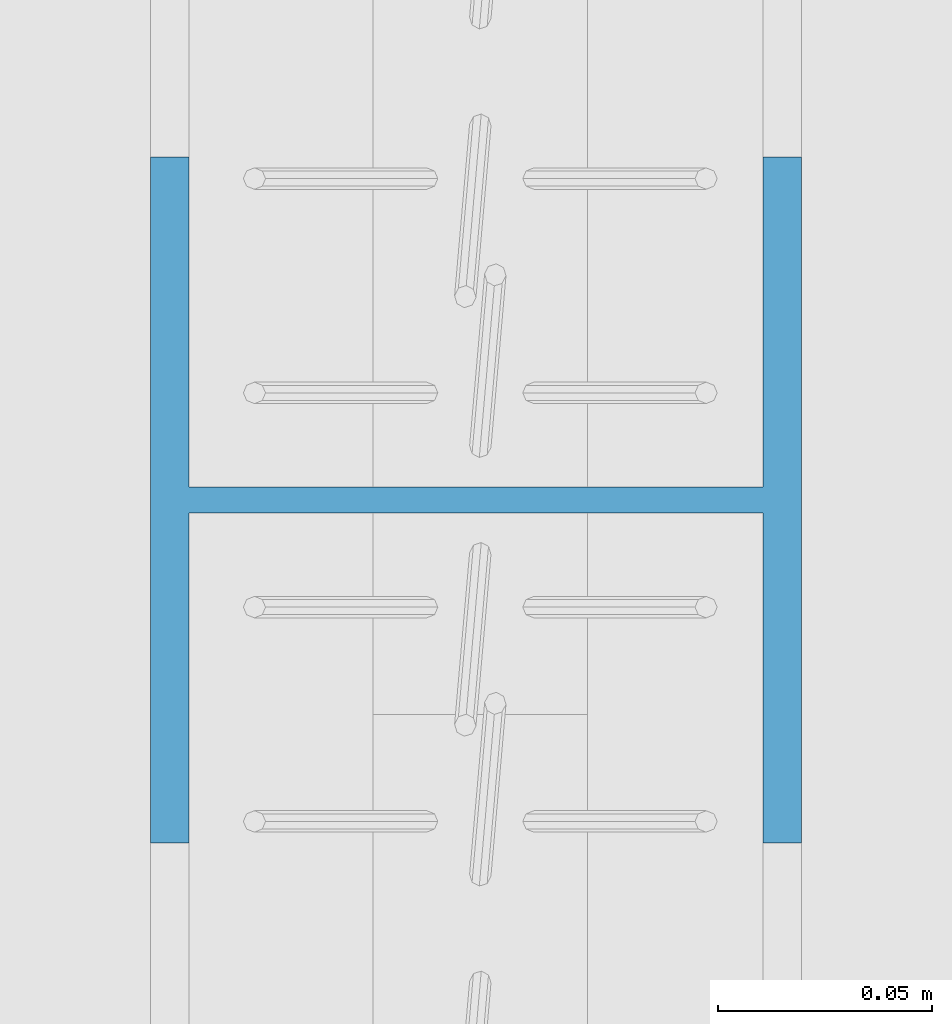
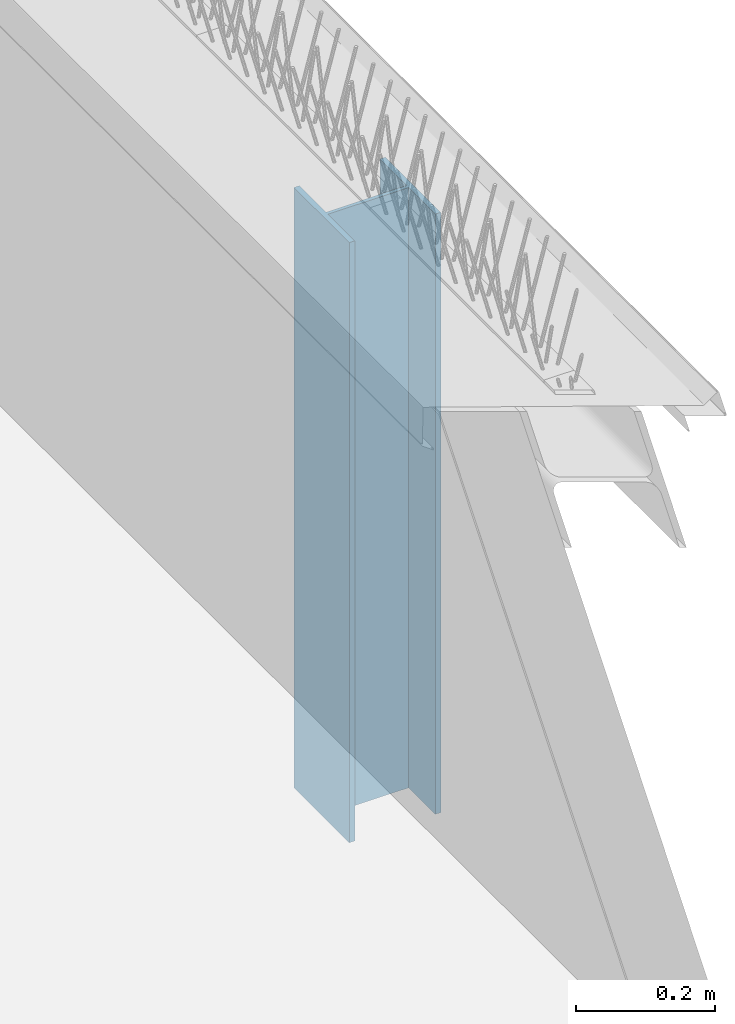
# One storey, part 12 of 81: 1 column.
"""IFC2X3 building model written with IfcOpenShell, lengths in millimetres."""

from ifc_helpers import new_model, entity, si_unit, converted_unit, derived_unit, money_unit, direction, frame, origin_with_axes, place, context, subcontext, project, spatial, faceted_brep, material, type_object, element, save


model = new_model("IFC2X3")

# Units and contexts
model_context = context("Model", 3, precision=0.01, world=origin_with_axes(), true_north=direction((0.0, 1.0)))
body_context = subcontext(model_context, "Body", "Model", "MODEL_VIEW")
ifc_project = project(units=[si_unit("LENGTHUNIT", "METRE", prefix="MILLI"), si_unit("AREAUNIT", "SQUARE_METRE"), si_unit("VOLUMEUNIT", "CUBIC_METRE"), converted_unit("PLANEANGLEUNIT", "DEGREE", entity("IfcPlaneAngleMeasure", 0.0174532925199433), si_unit("PLANEANGLEUNIT", "RADIAN"), dimensions=[0, 0, 0, 0, 0, 0, 0]), money_unit("EUR"), converted_unit("TIMEUNIT", "Year", entity("IfcTimeMeasure", 31557600.0), si_unit("TIMEUNIT", "SECOND"), dimensions=[0, 0, 1, 0, 0, 0, 0]), si_unit("MASSUNIT", "GRAM", prefix="KILO"), si_unit("THERMODYNAMICTEMPERATUREUNIT", "DEGREE_CELSIUS"), si_unit("LUMINOUSINTENSITYUNIT", "LUMEN"), si_unit("ENERGYUNIT", "JOULE", prefix="MEGA"), derived_unit("THERMALCONDUCTANCEUNIT", [(si_unit("POWERUNIT", "WATT"), 1), (si_unit("LENGTHUNIT", "METRE"), -1), (si_unit("THERMODYNAMICTEMPERATUREUNIT", "KELVIN"), -1)]), derived_unit("SPECIFICHEATCAPACITYUNIT", [(si_unit("ENERGYUNIT", "JOULE"), 1), (si_unit("MASSUNIT", "GRAM", prefix="KILO"), -1), (si_unit("THERMODYNAMICTEMPERATUREUNIT", "KELVIN"), -1)]), derived_unit("MASSDENSITYUNIT", [(si_unit("MASSUNIT", "GRAM", prefix="KILO"), 1), (si_unit("VOLUMEUNIT", "CUBIC_METRE"), -1)])], contexts=[model_context])

# Site, building, storey
site_placement = place(None, origin_with_axes())
site = spatial("IfcSite", under=ifc_project, at=site_placement, Name="Site", CompositionType="ELEMENT")
building_placement = place(site_placement, origin_with_axes())
building = spatial("IfcBuilding", under=site, at=building_placement, Name="Naam gebouw", CompositionType="ELEMENT")
storey_placement = place(building_placement, frame((0.0, 0.0, 15320.0), z_axis=(0.0, 0.0, 1.0), x_axis=(1.0, 0.0, 0.0)))
storey = spatial("IfcBuildingStorey", under=building, at=storey_placement, Name="01 dak", CompositionType="ELEMENT", Elevation=15320.0)

# Column
ifc_material = material(Name="Metaal - Staal C")
column_type = type_object("IfcColumnType", Name="HEA160 160 x 152", PredefinedType="COLUMN")
column_placement = place(storey_placement, frame((126824.0, 83600.00000000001, -400.0393597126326), z_axis=(0.0, 0.0, 1.0), x_axis=(0.0, -1.0, 0.0)))
element("IfcColumn", 1, at=column_placement, inside=storey, type_object=column_type, material=ifc_material, Name="HEA160", ObjectType="COLUMN", context=body_context, shape_type="Brep", body=[
    faceted_brep([(-79.9999999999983, 75.9999999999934, 1055.0), (-79.9999999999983, 75.9999999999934, 0.0), (-79.9999999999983, 66.99999999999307, 0.0), (-79.9999999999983, 66.99999999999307, 1055.0), (79.9999999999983, 75.9999999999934, 1055.0), (79.9999999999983, 75.9999999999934, 0.0), (79.9999999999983, 66.99999999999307, 0.0), (3.000000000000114, 66.99999999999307, 0.0), (3.000000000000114, -66.99999999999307, 0.0), (79.9999999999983, -66.99999999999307, 0.0), (79.9999999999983, -75.9999999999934, 0.0), (-79.9999999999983, -75.9999999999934, 0.0), (-79.9999999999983, -66.99999999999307, 0.0), (-3.000000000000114, -66.99999999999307, 0.0), (-3.000000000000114, 66.99999999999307, 0.0), (-3.000000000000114, 66.99999999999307, 1055.0), (-3.000000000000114, -66.99999999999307, 1055.0), (-79.9999999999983, -66.99999999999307, 1055.0), (-79.9999999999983, -75.9999999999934, 1055.0), (79.9999999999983, -75.9999999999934, 1055.0), (79.9999999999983, -66.99999999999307, 1055.0), (3.000000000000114, -66.99999999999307, 1055.0), (3.000000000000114, 66.99999999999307, 1055.0), (79.9999999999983, 66.99999999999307, 1055.0)], [[[0, 1, 2, 3]], [[4, 5, 1, 0]], [[2, 1, 5, 6, 7, 8, 9, 10, 11, 12, 13, 14]], [[3, 2, 14, 15]], [[4, 0, 3, 15, 16, 17, 18, 19, 20, 21, 22, 23]], [[23, 6, 5, 4]], [[22, 7, 6, 23]], [[21, 8, 7, 22]], [[20, 9, 8, 21]], [[19, 10, 9, 20]], [[18, 11, 10, 19]], [[17, 12, 11, 18]], [[16, 13, 12, 17]], [[15, 14, 13, 16]]]),
])

save(model, "model.ifc")
